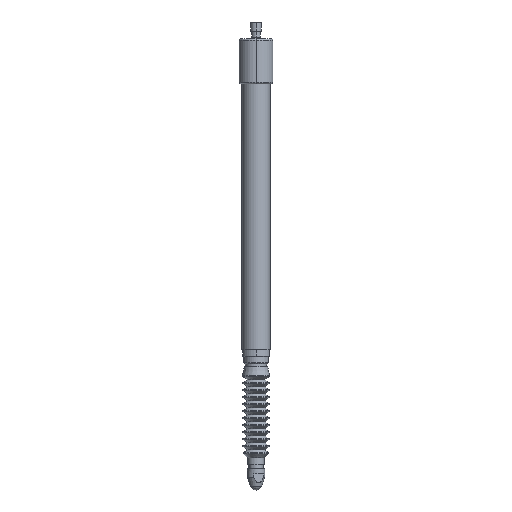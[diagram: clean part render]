
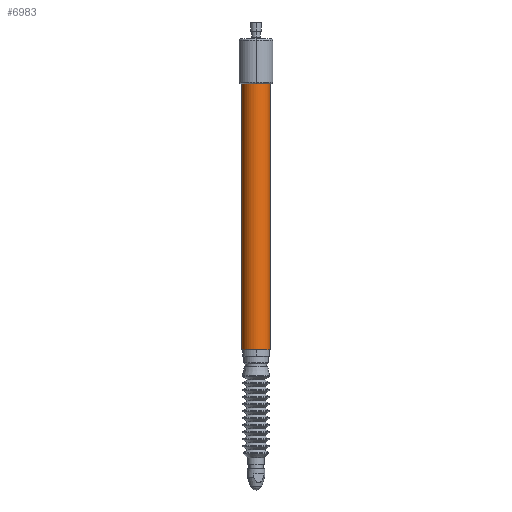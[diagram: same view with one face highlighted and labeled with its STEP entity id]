
A CAD part, front view. The second image highlights one B-rep face of the part: STEP entity #6983.
In plain terms, the highlighted cylindrical face has radius 4 mm (diameter 8 mm), a partial arc.
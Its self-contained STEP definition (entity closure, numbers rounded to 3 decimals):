
#34 = VERTEX_POINT ( 'NONE', #1155 ) ;
#106 = ORIENTED_EDGE ( 'NONE', *, *, #9805, .T. ) ;
#235 = DIRECTION ( 'NONE',  ( -1., 0., 0. ) ) ;
#304 = CIRCLE ( 'NONE', #3598, 4. ) ;
#487 = CARTESIAN_POINT ( 'NONE',  ( 2.066, -0.963, 87. ) ) ;
#717 = CARTESIAN_POINT ( 'NONE',  ( 2.316, 0.429, 6. ) ) ;
#1155 = CARTESIAN_POINT ( 'NONE',  ( -5.434, -0.963, 87. ) ) ;
#1365 = VERTEX_POINT ( 'NONE', #717 ) ;
#1571 = VERTEX_POINT ( 'NONE', #2351 ) ;
#1779 = EDGE_LOOP ( 'NONE', ( #6057, #3594, #106, #8459, #5898, #5720, #5153, #5781 ) ) ;
#1802 = EDGE_CURVE ( 'NONE', #8968, #1365, #1823, .T. ) ;
#1823 = LINE ( 'NONE', #8369, #4038 ) ;
#1923 = CIRCLE ( 'NONE', #5709, 4. ) ;
#2100 = CARTESIAN_POINT ( 'NONE',  ( -1.684, 0.429, 87. ) ) ;
#2170 = DIRECTION ( 'NONE',  ( 0., 0., 1. ) ) ;
#2351 = CARTESIAN_POINT ( 'NONE',  ( -5.684, 0.429, 87. ) ) ;
#2425 = AXIS2_PLACEMENT_3D ( 'NONE', #2100, #7797, #2960 ) ;
#2446 = CYLINDRICAL_SURFACE ( 'NONE', #2617, 4. ) ;
#2617 = AXIS2_PLACEMENT_3D ( 'NONE', #5523, #5357, #5174 ) ;
#2870 = VECTOR ( 'NONE', #6555, 1000. ) ;
#2960 = DIRECTION ( 'NONE',  ( -1., 0., 0. ) ) ;
#2982 = LINE ( 'NONE', #9327, #9184 ) ;
#3202 = AXIS2_PLACEMENT_3D ( 'NONE', #7050, #2170, #7866 ) ;
#3363 = VERTEX_POINT ( 'NONE', #6753 ) ;
#3594 = ORIENTED_EDGE ( 'NONE', *, *, #9790, .T. ) ;
#3598 = AXIS2_PLACEMENT_3D ( 'NONE', #10086, #5244, #235 ) ;
#3733 = CARTESIAN_POINT ( 'NONE',  ( -1.684, 0.429, 89. ) ) ;
#3857 = VECTOR ( 'NONE', #5384, 1000. ) ;
#3968 = CARTESIAN_POINT ( 'NONE',  ( 2.316, 0.429, 87. ) ) ;
#4038 = VECTOR ( 'NONE', #8125, 1000. ) ;
#4337 = VERTEX_POINT ( 'NONE', #4902 ) ;
#4570 = DIRECTION ( 'NONE',  ( 1., 0., 0. ) ) ;
#4902 = CARTESIAN_POINT ( 'NONE',  ( -5.434, -0.963, 89. ) ) ;
#4972 = CARTESIAN_POINT ( 'NONE',  ( -5.684, 0.429, 91. ) ) ;
#5153 = ORIENTED_EDGE ( 'NONE', *, *, #9618, .T. ) ;
#5174 = DIRECTION ( 'NONE',  ( -1., 0., 0. ) ) ;
#5244 = DIRECTION ( 'NONE',  ( 0., 0., -1. ) ) ;
#5276 = DIRECTION ( 'NONE',  ( 0., 0., 1. ) ) ;
#5357 = DIRECTION ( 'NONE',  ( 0., 0., -1. ) ) ;
#5384 = DIRECTION ( 'NONE',  ( 0., 0., -1. ) ) ;
#5523 = CARTESIAN_POINT ( 'NONE',  ( -1.684, 0.429, 91. ) ) ;
#5709 = AXIS2_PLACEMENT_3D ( 'NONE', #3733, #9393, #4570 ) ;
#5720 = ORIENTED_EDGE ( 'NONE', *, *, #9882, .T. ) ;
#5781 = ORIENTED_EDGE ( 'NONE', *, *, #9959, .T. ) ;
#5898 = ORIENTED_EDGE ( 'NONE', *, *, #9871, .T. ) ;
#6019 = LINE ( 'NONE', #7765, #3857 ) ;
#6057 = ORIENTED_EDGE ( 'NONE', *, *, #1802, .F. ) ;
#6555 = DIRECTION ( 'NONE',  ( 0., 0., -1. ) ) ;
#6753 = CARTESIAN_POINT ( 'NONE',  ( 2.066, -0.963, 89. ) ) ;
#6983 = ADVANCED_FACE ( 'NONE', ( #7548 ), #2446, .T. ) ;
#7050 = CARTESIAN_POINT ( 'NONE',  ( -1.684, 0.429, 6. ) ) ;
#7144 = CIRCLE ( 'NONE', #3202, 4. ) ;
#7166 = LINE ( 'NONE', #4972, #2870 ) ;
#7548 = FACE_OUTER_BOUND ( 'NONE', #1779, .T. ) ;
#7765 = CARTESIAN_POINT ( 'NONE',  ( -5.434, -0.963, 91. ) ) ;
#7797 = DIRECTION ( 'NONE',  ( 0., 0., -1. ) ) ;
#7866 = DIRECTION ( 'NONE',  ( 1., 0., 0. ) ) ;
#8040 = VERTEX_POINT ( 'NONE', #9421 ) ;
#8125 = DIRECTION ( 'NONE',  ( 0., 0., -1. ) ) ;
#8164 = CIRCLE ( 'NONE', #2425, 4. ) ;
#8369 = CARTESIAN_POINT ( 'NONE',  ( 2.316, 0.429, 91. ) ) ;
#8459 = ORIENTED_EDGE ( 'NONE', *, *, #9855, .F. ) ;
#8968 = VERTEX_POINT ( 'NONE', #3968 ) ;
#9184 = VECTOR ( 'NONE', #5276, 1000. ) ;
#9327 = CARTESIAN_POINT ( 'NONE',  ( 2.066, -0.963, 91. ) ) ;
#9393 = DIRECTION ( 'NONE',  ( 0., 0., 1. ) ) ;
#9421 = CARTESIAN_POINT ( 'NONE',  ( -5.684, 0.429, 6. ) ) ;
#9618 = EDGE_CURVE ( 'NONE', #1571, #8040, #7166, .T. ) ;
#9790 = EDGE_CURVE ( 'NONE', #8968, #9997, #304, .T. ) ;
#9805 = EDGE_CURVE ( 'NONE', #9997, #3363, #2982, .T. ) ;
#9855 = EDGE_CURVE ( 'NONE', #4337, #3363, #1923, .T. ) ;
#9871 = EDGE_CURVE ( 'NONE', #4337, #34, #6019, .T. ) ;
#9882 = EDGE_CURVE ( 'NONE', #34, #1571, #8164, .T. ) ;
#9959 = EDGE_CURVE ( 'NONE', #8040, #1365, #7144, .T. ) ;
#9997 = VERTEX_POINT ( 'NONE', #487 ) ;
#10086 = CARTESIAN_POINT ( 'NONE',  ( -1.684, 0.429, 87. ) ) ;
